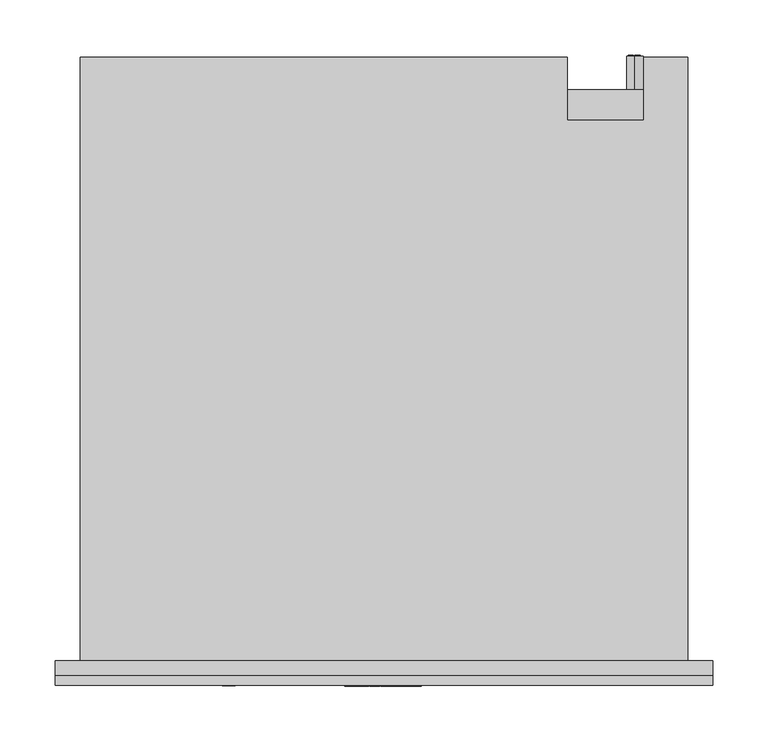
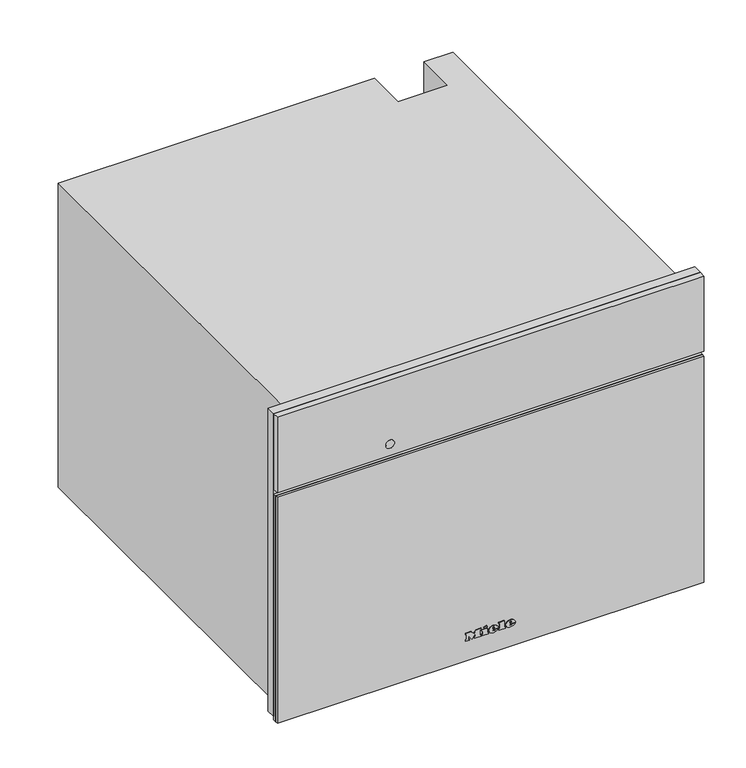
"""IFC4 building model written with IfcOpenShell, lengths in millimetres: proxy geometry, 11107020_D_DGC7440X_GRGR : 23744072_D_11107020_DGC7440X_GRGR."""

from ifc_helpers import new_model, si_unit, point, frame, frame_2d, origin, place, context, project, spatial, polyline, circle_curve, ellipse_curve, trimmed, segment, composite_curve, outline, extrude, faceted_brep, source, transform, mapped, element, save
from ifc_brep_helpers import plane_surface, cylinder_surface, revolved_surface, extruded_surface, advanced_brep


def specialty_equipment_7f041e0e(model_context):
    return source(origin(), model_context, "Body", "SolidModel", [
        extrude(outline(polyline([(455.0, 297.5), (455.0, -297.5), (9.0, -297.5), (9.0, 297.5), (455.0, 297.5)]), holes=[polyline([(344.0, -272.5), (344.0, 272.5), (27.0, 272.5), (27.0, -272.5), (344.0, -272.5)])]), frame((0.0, -13.0, 0.0), z_axis=(0.0, 1.0, 0.0), x_axis=(0.0, 0.0, 1.0)), (0.0, 0.0, 1.0), 13.0),
        advanced_brep(
        [(227.0, 547.0, 255.5), (227.0, 547.0, 240.5), (221.4098301, 547.0, 243.0), (225.5, 547.0, 243.0), (225.5, 547.0, 253.0), (224.4955303, 547.0, 253.0), (224.4955303, 547.0, 244.0), (221.0315043, 547.0, 244.0), (221.0315043, 547.0, 243.4582978), (232.0, 547.0, 243.0), (232.0, 547.0, 253.0), (227.0, 547.0, 253.0), (227.0, 547.0, 252.0), (231.0, 547.0, 252.0), (231.0, 547.0, 248.5), (228.0, 547.0, 248.5), (228.0, 547.0, 247.5), (231.0, 547.0, 247.5), (231.0, 547.0, 244.0), (227.0, 547.0, 244.0), (227.0, 547.0, 243.0), (227.0, 517.0, 240.5), (227.0, 517.0, 255.5), (232.0, 548.0, 253.0), (232.0, 548.0, 243.0), (227.0, 548.0, 243.0), (227.0, 548.0, 244.0), (231.0, 548.0, 244.0), (231.0, 548.0, 247.5), (228.0, 548.0, 247.5), (228.0, 548.0, 248.5), (231.0, 548.0, 248.5), (231.0, 548.0, 252.0), (227.0, 548.0, 252.0), (227.0, 548.0, 253.0), (225.5, 548.0, 243.0), (221.0315043, 548.0, 243.0), (221.0315043, 548.0, 244.0), (224.4955303, 548.0, 244.0), (224.4955303, 548.0, 253.0), (225.5, 548.0, 253.0), (221.0315043, 547.0, 243.0)],
        [
            (0, 1, circle_curve(frame((227.0, 547.0, 248.0), z_axis=(0.0, 1.0, 0.0), x_axis=(0.0, 0.0, 1.0)), 7.5)),
            (1, 2, circle_curve(frame((227.0, 547.0, 248.0), z_axis=(0.0, 1.0, 0.0), x_axis=(0.0, 0.0, 1.0)), 7.5)),
            (2, 3),
            (3, 4),
            (4, 5),
            (5, 6),
            (6, 7),
            (7, 8),
            (8, 0, circle_curve(frame((227.0, 547.0, 248.0), z_axis=(0.0, 1.0, 0.0), x_axis=(0.0, 0.0, 1.0)), 7.5)),
            (9, 10),
            (10, 11),
            (11, 12),
            (12, 13),
            (13, 14),
            (14, 15),
            (15, 16),
            (16, 17),
            (17, 18),
            (18, 19),
            (19, 20),
            (20, 9),
            (21, 22, circle_curve(frame((227.0, 517.0, 248.0), z_axis=(0.0, -1.0, 0.0), x_axis=(0.0, 0.0, 1.0)), 7.5)),
            (22, 21, circle_curve(frame((227.0, 517.0, 248.0), z_axis=(0.0, -1.0, 0.0), x_axis=(0.0, 0.0, 1.0)), 7.5)),
            (0, 22),
            (21, 1),
            (8, 2, circle_curve(frame((227.0, 547.0, 248.0), z_axis=(0.0, -1.0, 0.0), x_axis=(0.0, 0.0, 1.0)), 7.5)),
            (23, 24),
            (24, 25),
            (25, 26),
            (26, 27),
            (27, 28),
            (28, 29),
            (29, 30),
            (30, 31),
            (31, 32),
            (32, 33),
            (33, 34),
            (34, 23),
            (35, 36),
            (36, 37),
            (37, 38),
            (38, 39),
            (39, 40),
            (40, 35),
            (8, 41),
            (41, 2),
            (23, 10),
            (9, 24),
            (20, 25),
            (19, 26),
            (18, 27),
            (17, 28),
            (16, 29),
            (15, 30),
            (14, 31),
            (13, 32),
            (12, 33),
            (11, 34),
            (35, 3),
            (41, 36),
            (7, 37),
            (6, 38),
            (5, 39),
            (4, 40),
        ],
        [
            plane_surface(frame((227.0, 547.0, 255.5), z_axis=(0.0, 1.0, 0.0), x_axis=(1.0, 0.0, 0.0))),
            plane_surface(frame((227.0, 517.0, 255.5), z_axis=(0.0, -1.0, 0.0), x_axis=(-1.0, 0.0, 0.0))),
            cylinder_surface(frame((227.0, 547.0, 248.0), z_axis=(0.0, -1.0, 0.0), x_axis=(0.0, 0.0, 1.0)), 7.5),
            plane_surface(frame((232.0, 548.0, 253.0), z_axis=(0.0, 1.0, 0.0), x_axis=(0.0, 0.0, -1.0))),
            plane_surface(frame((232.0, 547.0, 253.0), z_axis=(0.0, -1.0, 0.0), x_axis=(0.0, 0.0, 1.0))),
            plane_surface(frame((232.0, 548.0, 253.0), z_axis=(1.0, 0.0, 0.0), x_axis=(0.0, -1.0, 0.0))),
            plane_surface(frame((232.0, 548.0, 243.0), z_axis=(0.0, 0.0, -1.0), x_axis=(0.0, -1.0, 0.0))),
            plane_surface(frame((227.0, 548.0, 243.0), z_axis=(-1.0, 0.0, 0.0), x_axis=(0.0, -1.0, 0.0))),
            plane_surface(frame((227.0, 548.0, 244.0), z_axis=(0.0, 0.0, 1.0), x_axis=(0.0, -1.0, 0.0))),
            plane_surface(frame((231.0, 548.0, 244.0), z_axis=(-1.0, 0.0, 0.0), x_axis=(0.0, -1.0, 0.0))),
            plane_surface(frame((231.0, 548.0, 247.5), z_axis=(0.0, 0.0, -1.0), x_axis=(0.0, -1.0, 0.0))),
            plane_surface(frame((228.0, 548.0, 247.5), z_axis=(-1.0, 0.0, 0.0), x_axis=(0.0, -1.0, 0.0))),
            plane_surface(frame((228.0, 548.0, 248.5), z_axis=(0.0, 0.0, 1.0), x_axis=(0.0, -1.0, 0.0))),
            plane_surface(frame((231.0, 548.0, 248.5), z_axis=(-1.0, 0.0, 0.0), x_axis=(0.0, -1.0, 0.0))),
            plane_surface(frame((231.0, 548.0, 252.0), z_axis=(0.0, 0.0, -1.0), x_axis=(0.0, -1.0, 0.0))),
            plane_surface(frame((227.0, 548.0, 252.0), z_axis=(-1.0, 0.0, 0.0), x_axis=(0.0, -1.0, 0.0))),
            plane_surface(frame((227.0, 548.0, 253.0), z_axis=(0.0, 0.0, 1.0), x_axis=(0.0, -1.0, 0.0))),
            plane_surface(frame((225.5, 548.0, 243.0), z_axis=(0.0, 0.0, -1.0), x_axis=(0.0, -1.0, 0.0))),
            plane_surface(frame((221.0315043, 548.0, 243.0), z_axis=(-1.0, 0.0, 0.0), x_axis=(0.0, -1.0, 0.0))),
            plane_surface(frame((221.0315043, 548.0, 244.0), z_axis=(0.0, 0.0, 1.0), x_axis=(0.0, -1.0, 0.0))),
            plane_surface(frame((224.4955303, 548.0, 244.0), z_axis=(-1.0, 0.0, 0.0), x_axis=(0.0, -1.0, 0.0))),
            plane_surface(frame((224.4955303, 548.0, 253.0), z_axis=(0.0, 0.0, 1.0), x_axis=(0.0, -1.0, 0.0))),
            plane_surface(frame((225.5, 548.0, 253.0), z_axis=(1.0, 0.0, 0.0), x_axis=(0.0, -1.0, 0.0))),
        ],
        [
            (0, [[1, 2, 3, 4, 5, 6, 7, 8, 9], [10, 11, 12, 13, 14, 15, 16, 17, 18, 19, 20, 21]]),
            (1, [[22, 23]]),
            (2, [[-1, 24, -22, 25]]),
            (2, [[-23, -24, -9, 26, -2, -25]]),
            (3, [[27, 28, 29, 30, 31, 32, 33, 34, 35, 36, 37, 38]]),
            (3, [[39, 40, 41, 42, 43, 44]]),
            (4, [[45, 46, -26]]),
            (5, [[-27, 47, -10, 48]]),
            (6, [[-28, -48, -21, 49]]),
            (7, [[-29, -49, -20, 50]]),
            (8, [[-30, -50, -19, 51]]),
            (9, [[-31, -51, -18, 52]]),
            (10, [[-32, -52, -17, 53]]),
            (11, [[-33, -53, -16, 54]]),
            (12, [[-34, -54, -15, 55]]),
            (13, [[-35, -55, -14, 56]]),
            (14, [[-36, -56, -13, 57]]),
            (15, [[-37, -57, -12, 58]]),
            (16, [[-38, -58, -11, -47]]),
            (17, [[-39, 59, -3, -46, 60]]),
            (18, [[-40, -60, -45, -8, 61]]),
            (19, [[-41, -61, -7, 62]]),
            (20, [[-42, -62, -6, 63]]),
            (21, [[-43, -63, -5, 64]]),
            (22, [[-44, -64, -4, -59]]),
        ],
    ),
        faceted_brep([(-275.0, 546.0, 0.0), (-275.0, 546.0, 448.0), (166.0, 546.0, 448.0), (166.0, 546.0, 0.0), (235.0, 546.0, 448.0), (275.0, 546.0, 448.0), (275.0, 546.0, 338.0), (235.0, 546.0, 338.0), (275.0, 0.0, 448.0), (-275.0, 0.0, 448.0), (-275.0, 0.0, 0.0), (275.0, 0.0, 0.0), (-272.5, 0.0, 344.0), (272.5, 0.0, 344.0), (272.5, 0.0, 27.0), (-272.5, 0.0, 27.0), (235.0, 489.0, 448.0), (166.0, 489.0, 448.0), (166.0, 517.0, 0.0), (275.0, 517.0, 0.0), (275.0, 517.0, 338.0), (272.5, 17.0, 344.0), (-272.5, 17.0, 344.0), (-272.5, 17.0, 27.0), (272.5, 17.0, 27.0), (231.0, 17.0, 307.0), (231.0, 17.0, 65.0), (-231.0, 17.0, 65.0), (-231.0, 17.0, 307.0), (231.0, 411.0, 307.0), (-231.0, 411.0, 307.0), (-231.0, 411.0, 65.0), (231.0, 411.0, 65.0), (235.0, 489.0, 337.0), (166.0, 489.0, 337.0), (166.0, 517.0, 337.0), (235.0, 517.0, 337.0), (235.0, 517.0, 338.0)], [[[0, 1, 2, 3]], [[4, 5, 6, 7]], [[8, 9, 10, 11], [12, 13, 14, 15]], [[9, 8, 5, 4, 16, 17, 2, 1]], [[1, 0, 10, 9]], [[11, 10, 0, 3, 18, 19]], [[8, 11, 19, 20, 6, 5]], [[21, 22, 23, 24], [25, 26, 27, 28]], [[22, 21, 13, 12]], [[23, 22, 12, 15]], [[24, 23, 15, 14]], [[21, 24, 14, 13]], [[29, 30, 31, 32]], [[29, 32, 26, 25]], [[32, 31, 27, 26]], [[31, 30, 28, 27]], [[30, 29, 25, 28]], [[16, 33, 34, 17]], [[17, 34, 35, 18, 3, 2]], [[34, 33, 36, 35]], [[33, 16, 4, 7, 37, 36]], [[37, 20, 19, 18, 35, 36]], [[20, 37, 7, 6]]]),
        advanced_brep(
        [(26.2998, -23.0, 36.7018), (26.2998, -23.0, 37.8532), (33.9264, -23.0, 37.8532), (20.6568, -23.0, 37.8532), (23.7918, -23.0, 34.0), (33.7326, -23.0, 36.7018), (30.2898, -23.0, 36.7018), (27.5766, -23.0, 35.425), (26.2998, -23.0, 39.3124), (26.2998, -23.0, 40.555), (28.2492, -23.0, 40.555), (28.2492, -23.0, 39.3124), (26.2998, -22.0, 36.7018), (27.5766, -22.0, 35.425), (30.2898, -22.0, 36.7018), (33.7326, -22.0, 36.7018), (23.7918, -22.0, 34.0), (20.6568, -22.0, 37.8532), (33.9264, -22.0, 37.8532), (26.2998, -22.0, 37.8532), (26.2998, -22.0, 39.3124), (28.2492, -22.0, 39.3124), (28.2492, -22.0, 40.555), (26.2998, -22.0, 40.555)],
        [
            (0, 1),
            (1, 2),
            (2, 3, ellipse_curve(frame((27.2916, -23.0, 37.8532), z_axis=(0.0, -1.0, 0.0), x_axis=(-1.0, 0.0, 0.0)), 6.6348, 5.4834)),
            (3, 4, circle_curve(frame((25.0686622, -23.0, 38.2408), z_axis=(0.0, -1.0, 0.0), x_axis=(0.0, 0.0, -1.0)), 4.4288556)),
            (4, 5, circle_curve(frame((27.1587808, -23.0, 41.2504), z_axis=(0.0, -1.0, 0.0), x_axis=(0.0, 0.0, -1.0)), 7.9940516)),
            (5, 6),
            (6, 7, circle_curve(frame((28.1338588, -23.0, 37.762), z_axis=(0.0, 1.0, 0.0), x_axis=(0.0, 0.0, -1.0)), 2.4025208)),
            (7, 0, circle_curve(frame((27.5766, -23.0, 36.7018), z_axis=(0.0, 1.0, 0.0), x_axis=(0.0, 0.0, -1.0)), 1.2768)),
            (8, 9),
            (9, 10, circle_curve(frame((27.2745, -23.0, 40.555), z_axis=(0.0, 1.0, 0.0), x_axis=(0.0, 0.0, -1.0)), 0.9747)),
            (10, 11),
            (11, 8),
            (12, 13, circle_curve(frame((27.5766, -22.0, 36.7018), z_axis=(0.0, -1.0, 0.0), x_axis=(0.0, 0.0, -1.0)), 1.2768)),
            (13, 14, circle_curve(frame((28.1338588, -22.0, 37.762), z_axis=(0.0, -1.0, 0.0), x_axis=(0.0, 0.0, -1.0)), 2.4025208)),
            (14, 15),
            (15, 16, circle_curve(frame((27.1587808, -22.0, 41.2504), z_axis=(0.0, 1.0, 0.0), x_axis=(0.0, 0.0, -1.0)), 7.9940516)),
            (16, 17, circle_curve(frame((25.0686622, -22.0, 38.2408), z_axis=(0.0, 1.0, 0.0), x_axis=(0.0, 0.0, -1.0)), 4.4288556)),
            (17, 18, ellipse_curve(frame((27.2916, -22.0, 37.8532), z_axis=(0.0, 1.0, 0.0), x_axis=(-1.0, 0.0, 0.0)), 6.6348, 5.4834)),
            (18, 19),
            (19, 12),
            (20, 21),
            (21, 22),
            (22, 23, circle_curve(frame((27.2745, -22.0, 40.555), z_axis=(0.0, -1.0, 0.0), x_axis=(0.0, 0.0, -1.0)), 0.9747)),
            (23, 20),
            (0, 12),
            (19, 1),
            (18, 2),
            (5, 15),
            (14, 6),
            (17, 3),
            (13, 7),
            (16, 4),
            (8, 20),
            (23, 9),
            (22, 10),
            (21, 11),
        ],
        [
            plane_surface(frame((26.2998, -23.0, 37.8532), z_axis=(0.0, -1.0, 0.0), x_axis=(0.0, 0.0, 1.0))),
            plane_surface(frame((26.2998, -22.0, 37.8532), z_axis=(0.0, 1.0, 0.0), x_axis=(0.0, 0.0, -1.0))),
            plane_surface(frame((26.2998, -23.0, 36.7018), z_axis=(1.0, 0.0, 0.0), x_axis=(0.0, 1.0, 0.0))),
            plane_surface(frame((26.2998, -23.0, 37.8532), z_axis=(0.0, 0.0, -1.0), x_axis=(0.0, 1.0, 0.0))),
            plane_surface(frame((33.7326, -23.0, 36.7018), z_axis=(0.0, 0.0, 1.0), x_axis=(0.0, 1.0, 0.0))),
            extruded_surface(trimmed(ellipse_curve(frame((27.2916, -21.0, 37.8532), z_axis=(0.0, -1.0, 0.0), x_axis=(-1.0, 0.0, 0.0)), 6.6348, 5.4834), [point((33.9264, -21.0, 37.8532))], [point((20.6568, -21.0, 37.8532))], True, "CARTESIAN"), (0.0, -1.0, 0.0), 1.0),
            revolved_surface(polyline([(28.1338588, -22.0, 35.3594792), (28.1338588, -23.0, 35.3594792)]), (28.1338588, -22.0, 37.762), (0.0, 1.0, 0.0)),
            revolved_surface(polyline([(27.5766, -22.0, 35.425), (27.5766, -23.0, 35.425)]), (27.5766, -22.0, 36.7018), (0.0, 1.0, 0.0)),
            cylinder_surface(frame((25.0686622, -22.0, 38.2408), z_axis=(0.0, -1.0, 0.0), x_axis=(0.0, 0.0, -1.0)), 4.4288556),
            cylinder_surface(frame((27.1587808, -22.0, 41.2504), z_axis=(0.0, -1.0, 0.0), x_axis=(0.0, 0.0, -1.0)), 7.9940516),
            plane_surface(frame((26.2998, -23.0, 39.3124), z_axis=(1.0, 0.0, 0.0), x_axis=(0.0, 1.0, 0.0))),
            revolved_surface(polyline([(27.2745, -22.0, 39.5803), (27.2745, -23.0, 39.5803)]), (27.2745, -22.0, 40.555), (0.0, 1.0, 0.0)),
            plane_surface(frame((28.2492, -23.0, 40.555), z_axis=(-1.0, 0.0, 0.0), x_axis=(0.0, 1.0, 0.0))),
            plane_surface(frame((28.2492, -23.0, 39.3124), z_axis=(0.0, 0.0, 1.0), x_axis=(0.0, 1.0, 0.0))),
        ],
        [
            (0, [[1, 2, 3, 4, 5, 6, 7, 8], [9, 10, 11, 12]]),
            (1, [[13, 14, 15, 16, 17, 18, 19, 20], [21, 22, 23, 24]]),
            (2, [[-1, 25, -20, 26]]),
            (3, [[-2, -26, -19, 27]]),
            (4, [[-6, 28, -15, 29]]),
            (5, [[-3, -27, -18, 30]]),
            (6, [[-7, -29, -14, 31]]),
            (7, [[-8, -31, -13, -25]]),
            (8, [[-4, -30, -17, 32]]),
            (9, [[-5, -32, -16, -28]]),
            (10, [[-9, 33, -24, 34]]),
            (11, [[-10, -34, -23, 35]]),
            (12, [[-11, -35, -22, 36]]),
            (13, [[-12, -36, -21, -33]]),
        ],
    ),
        advanced_brep(
        [(2.508, -23.0, 36.7018), (2.508, -23.0, 37.8532), (10.1346, -23.0, 37.8532), (-3.135, -23.0, 37.8532), (0.0, -23.0, 34.0), (9.9408, -23.0, 36.7018), (6.498, -23.0, 36.7018), (3.7848, -23.0, 35.425), (2.508, -23.0, 39.3124), (2.508, -23.0, 40.555), (4.4574, -23.0, 40.555), (4.4574, -23.0, 39.3124), (2.508, -22.0, 36.7018), (3.7848, -22.0, 35.425), (6.498, -22.0, 36.7018), (9.9408, -22.0, 36.7018), (0.0, -22.0, 34.0), (-3.135, -22.0, 37.8532), (10.1346, -22.0, 37.8532), (2.508, -22.0, 37.8532), (2.508, -22.0, 39.3124), (4.4574, -22.0, 39.3124), (4.4574, -22.0, 40.555), (2.508, -22.0, 40.555)],
        [
            (0, 1),
            (1, 2),
            (2, 3, ellipse_curve(frame((3.4998, -23.0, 37.8532), z_axis=(0.0, -1.0, 0.0), x_axis=(-1.0, 0.0, 0.0)), 6.6348, 5.4834)),
            (3, 4, circle_curve(frame((1.2768622, -23.0, 38.2408), z_axis=(0.0, -1.0, 0.0), x_axis=(0.0, 0.0, -1.0)), 4.4288556)),
            (4, 5, circle_curve(frame((3.3669808, -23.0, 41.2504), z_axis=(0.0, -1.0, 0.0), x_axis=(0.0, 0.0, -1.0)), 7.9940516)),
            (5, 6),
            (6, 7, circle_curve(frame((4.3420588, -23.0, 37.762), z_axis=(0.0, 1.0, 0.0), x_axis=(0.0, 0.0, -1.0)), 2.4025208)),
            (7, 0, circle_curve(frame((3.7848, -23.0, 36.7018), z_axis=(0.0, 1.0, 0.0), x_axis=(0.0, 0.0, -1.0)), 1.2768)),
            (8, 9),
            (9, 10, circle_curve(frame((3.4827, -23.0, 40.555), z_axis=(0.0, 1.0, 0.0), x_axis=(0.0, 0.0, -1.0)), 0.9747)),
            (10, 11),
            (11, 8),
            (12, 13, circle_curve(frame((3.7848, -22.0, 36.7018), z_axis=(0.0, -1.0, 0.0), x_axis=(0.0, 0.0, -1.0)), 1.2768)),
            (13, 14, circle_curve(frame((4.3420588, -22.0, 37.762), z_axis=(0.0, -1.0, 0.0), x_axis=(0.0, 0.0, -1.0)), 2.4025208)),
            (14, 15),
            (15, 16, circle_curve(frame((3.3669808, -22.0, 41.2504), z_axis=(0.0, 1.0, 0.0), x_axis=(0.0, 0.0, -1.0)), 7.9940516)),
            (16, 17, circle_curve(frame((1.2768622, -22.0, 38.2408), z_axis=(0.0, 1.0, 0.0), x_axis=(0.0, 0.0, -1.0)), 4.4288556)),
            (17, 18, ellipse_curve(frame((3.4998, -22.0, 37.8532), z_axis=(0.0, 1.0, 0.0), x_axis=(-1.0, 0.0, 0.0)), 6.6348, 5.4834)),
            (18, 19),
            (19, 12),
            (20, 21),
            (21, 22),
            (22, 23, circle_curve(frame((3.4827, -22.0, 40.555), z_axis=(0.0, -1.0, 0.0), x_axis=(0.0, 0.0, -1.0)), 0.9747)),
            (23, 20),
            (0, 12),
            (19, 1),
            (18, 2),
            (5, 15),
            (14, 6),
            (17, 3),
            (13, 7),
            (16, 4),
            (8, 20),
            (23, 9),
            (22, 10),
            (21, 11),
        ],
        [
            plane_surface(frame((2.508, -23.0, 37.8532), z_axis=(0.0, -1.0, 0.0), x_axis=(0.0, 0.0, 1.0))),
            plane_surface(frame((2.508, -22.0, 37.8532), z_axis=(0.0, 1.0, 0.0), x_axis=(0.0, 0.0, -1.0))),
            plane_surface(frame((2.508, -23.0, 36.7018), z_axis=(1.0, 0.0, 0.0), x_axis=(0.0, 1.0, 0.0))),
            plane_surface(frame((2.508, -23.0, 37.8532), z_axis=(0.0, 0.0, -1.0), x_axis=(0.0, 1.0, 0.0))),
            plane_surface(frame((9.9408, -23.0, 36.7018), z_axis=(0.0, 0.0, 1.0), x_axis=(0.0, 1.0, 0.0))),
            extruded_surface(trimmed(ellipse_curve(frame((3.4998, -21.0, 37.8532), z_axis=(0.0, -1.0, 0.0), x_axis=(-1.0, 0.0, 0.0)), 6.6348, 5.4834), [point((10.1346, -21.0, 37.8532))], [point((-3.135, -21.0, 37.8532))], True, "CARTESIAN"), (0.0, -1.0, 0.0), 1.0),
            revolved_surface(polyline([(4.3420588, -22.0, 35.3594792), (4.3420588, -23.0, 35.3594792)]), (4.3420588, -22.0, 37.762), (0.0, 1.0, 0.0)),
            revolved_surface(polyline([(3.7848, -22.0, 35.425), (3.7848, -23.0, 35.425)]), (3.7848, -22.0, 36.7018), (0.0, 1.0, 0.0)),
            cylinder_surface(frame((1.2768622, -22.0, 38.2408), z_axis=(0.0, -1.0, 0.0), x_axis=(0.0, 0.0, -1.0)), 4.4288556),
            cylinder_surface(frame((3.3669808, -22.0, 41.2504), z_axis=(0.0, -1.0, 0.0), x_axis=(0.0, 0.0, -1.0)), 7.9940516),
            plane_surface(frame((2.508, -23.0, 39.3124), z_axis=(1.0, 0.0, 0.0), x_axis=(0.0, 1.0, 0.0))),
            revolved_surface(polyline([(3.4827, -22.0, 39.5803), (3.4827, -23.0, 39.5803)]), (3.4827, -22.0, 40.555), (0.0, 1.0, 0.0)),
            plane_surface(frame((4.4574, -23.0, 40.555), z_axis=(-1.0, 0.0, 0.0), x_axis=(0.0, 1.0, 0.0))),
            plane_surface(frame((4.4574, -23.0, 39.3124), z_axis=(0.0, 0.0, 1.0), x_axis=(0.0, 1.0, 0.0))),
        ],
        [
            (0, [[1, 2, 3, 4, 5, 6, 7, 8], [9, 10, 11, 12]]),
            (1, [[13, 14, 15, 16, 17, 18, 19, 20], [21, 22, 23, 24]]),
            (2, [[-1, 25, -20, 26]]),
            (3, [[-2, -26, -19, 27]]),
            (4, [[-6, 28, -15, 29]]),
            (5, [[-3, -27, -18, 30]]),
            (6, [[-7, -29, -14, 31]]),
            (7, [[-8, -31, -13, -25]]),
            (8, [[-4, -30, -17, 32]]),
            (9, [[-5, -32, -16, -28]]),
            (10, [[-9, 33, -24, 34]]),
            (11, [[-10, -34, -23, 35]]),
            (12, [[-11, -35, -22, 36]]),
            (13, [[-12, -36, -21, -33]]),
        ],
    ),
        extrude(outline(polyline([(44.7274, -9.9522), (42.8806, -9.0858), (44.6818, -5.2212), (46.5286, -6.0762), (44.7274, -9.9522)])), frame((0.0, -23.0, 0.0), z_axis=(0.0, 1.0, 0.0), x_axis=(0.0, 0.0, 1.0)), (0.0, 0.0, 1.0), 1.0),
        extrude(outline(polyline([(42.6298, -12.768), (40.5892, -12.768), (40.5892, -11.4114), (35.9152, -11.4114), (35.9152, -12.768), (34.0, -12.768), (34.0, -3.7734), (35.9152, -3.7734), (35.9152, -5.0958), (42.6298, -5.0958), (42.6298, -12.768)])), frame((0.0, -23.0, 0.0), z_axis=(0.0, 1.0, 0.0), x_axis=(0.0, 0.0, 1.0)), (0.0, 0.0, 1.0), 1.0),
        extrude(outline(polyline([(43.5418, 10.773), (43.5418, 12.141), (35.9152, 12.141), (35.9152, 10.773), (34.0, 10.773), (34.0, 20.0184), (35.9152, 20.0184), (35.9152, 18.6162), (45.4, 18.6162), (45.4, 10.773), (43.5418, 10.773)])), frame((0.0, -23.0, 0.0), z_axis=(0.0, 1.0, 0.0), x_axis=(0.0, 0.0, 1.0)), (0.0, 0.0, 1.0), 1.0),
        extrude(outline(polyline([(43.5418, -35.4882), (43.5418, -34.1088), (35.9152, -34.1088), (35.9152, -35.4882), (34.0, -35.4882), (34.0, -30.4722), (35.9152, -30.4722), (35.9152, -31.8402), (40.7429247, -31.8402), (34.0, -26.7444), (40.9402223, -21.6258), (35.9152, -21.6258), (35.9152, -23.028), (34.0, -23.028), (34.0, -13.9308), (35.9152, -13.9308), (35.9152, -15.3786), (43.5418, -15.3786), (43.5418, -13.9308), (45.4, -13.9308), (45.4, -20.8734), (41.125, -24.2022), (45.4, -27.5424), (45.4, -35.4882), (43.5418, -35.4882)])), frame((0.0, -23.0, 0.0), z_axis=(0.0, 1.0, 0.0), x_axis=(0.0, 0.0, 1.0)), (0.0, 0.0, 1.0), 1.0),
        extrude(outline(polyline([(297.5, -22.0), (-297.5, -22.0), (-297.5, -13.0), (297.5, -13.0), (297.5, -22.0)])), frame((0.0, 0.0, 344.0), z_axis=(0.0, 0.0, 1.0), x_axis=(1.0, 0.0, 0.0)), (0.0, 0.0, 1.0), 111.0),
        extrude(outline(composite_curve([segment(trimmed(circle_curve(frame_2d((361.0, -140.5745637)), 6.0), [point((361.0, -146.5745637))], [point((361.0, -134.5745637))], False, "CARTESIAN"), True, "CONTINUOUS"), segment(trimmed(circle_curve(frame_2d((361.0, -140.5745637)), 6.0), [point((361.0, -134.5745637))], [point((361.0, -146.5745637))], False, "CARTESIAN"), True, "CONTINUOUS")], self_intersect=False)), frame((0.0, -22.5, 0.0), z_axis=(0.0, 1.0, 0.0), x_axis=(0.0, 0.0, 1.0)), (0.0, 0.0, 1.0), 1.0),
        extrude(outline(polyline([(297.5, -18.0), (-297.5, -18.0), (-297.5, -13.0), (297.5, -13.0), (297.5, -18.0)])), frame((0.0, 0.0, 4.0), z_axis=(0.0, 0.0, 1.0), x_axis=(1.0, 0.0, 0.0)), (0.0, 0.0, 1.0), 333.0),
        extrude(outline(polyline([(-297.5, -18.0), (297.5, -18.0), (297.5, -22.0), (-297.5, -22.0), (-297.5, -18.0)])), frame((0.0, 0.0, 4.0), z_axis=(0.0, 0.0, 1.0), x_axis=(1.0, 0.0, 0.0)), (0.0, 0.0, 1.0), 333.0),
    ])


if __name__ == "__main__":
    model = new_model("IFC4")
    model_context = context("Model", 3, world=origin())
    ifc_project = project(units=[si_unit("LENGTHUNIT", "METRE", prefix="MILLI")], contexts=[model_context])
    site = spatial("IfcSite", under=ifc_project)
    building = spatial("IfcBuilding", under=site)
    placement = place(None, origin())
    specialty_equipment_shape = specialty_equipment_7f041e0e(model_context)
    element("IfcBuildingElementProxy", 1, Name="11107020_D_DGC7440X_GRGR : 23744072_D_11107020_DGC7440X_GRGR", ObjectType="11107020_D_DGC7440X_GRGR : 23744072_D_11107020_DGC7440X_GRGR", at=placement, inside=building, context=model_context, shape_type="MappedRepresentation", body=[
        mapped(specialty_equipment_shape, transform((0.0, 0.0, 0.0), x_axis=(1.0, 0.0, 0.0), y_axis=(0.0, 1.0, 0.0), z_axis=(0.0, 0.0, 1.0))),
    ])
    save(model, "model.ifc")
